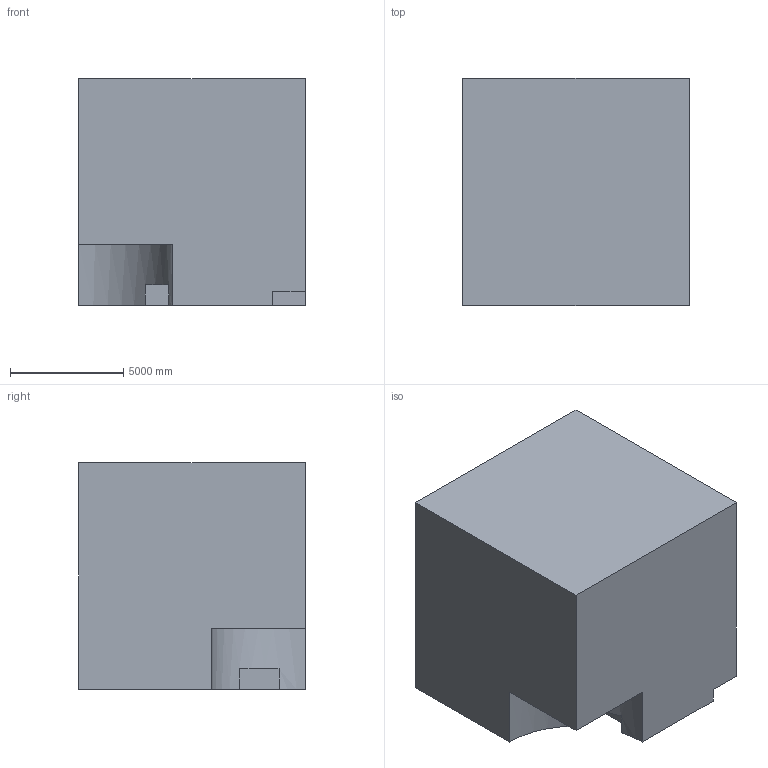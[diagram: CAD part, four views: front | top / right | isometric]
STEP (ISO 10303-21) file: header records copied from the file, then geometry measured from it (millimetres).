
FILE_DESCRIPTION (( 'STEP AP203' ), '1' );
FILE_NAME ('23.STEP', '2022-09-02T13:42:47', ( 'user' ), ( '' ), 'SwSTEP 2.0', 'SolidWorks 2021', '' );
FILE_SCHEMA (( 'CONFIG_CONTROL_DESIGN' ));
Length unit declared in the file: centimetre
Products named in the file (1): 23
Bounding box: 10000 x 10000 x 10000 mm (x, y, z)
Volume: 957560776569.8 mm3; surface area: 601198288.8 mm2
Topology: 1 solids, 1 shells, 15 faces, 39 edges, 26 vertices
Faces by surface type: plane 14, cylinder 1
Entity records: 534 total; most frequent: CARTESIAN_POINT 81, ORIENTED_EDGE 78, DIRECTION 75, EDGE_CURVE 39, LINE 35, VECTOR 35, VERTEX_POINT 26, AXIS2_PLACEMENT_3D 20
